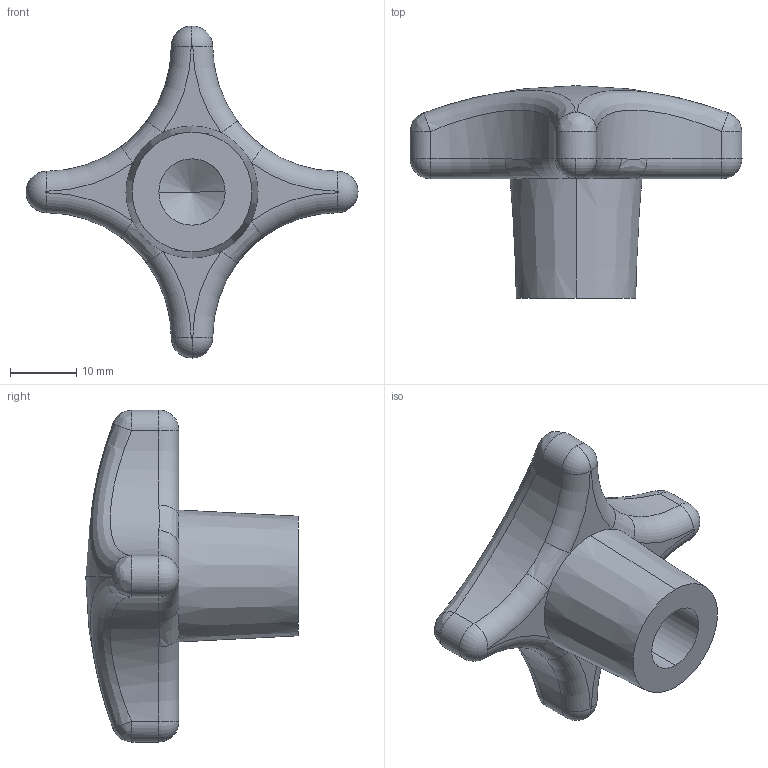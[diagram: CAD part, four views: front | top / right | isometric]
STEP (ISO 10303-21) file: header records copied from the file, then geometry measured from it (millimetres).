
FILE_DESCRIPTION (( 'STEP AP203' ), '1' );
FILE_NAME ('7000.W250.step', '2010-01-29T17:36:31', ( 'Wixroyd' ), ( 'Wixroyd' ), 'SwSTEP 2.0', 'SolidWorks 2009', '' );
FILE_SCHEMA (( 'CONFIG_CONTROL_DESIGN' ));
Length unit declared in the file: millimetre
Products named in the file (1): 7000.W250
Bounding box: 50 x 32 x 50 mm (x, y, z)
Volume: 13779.2 mm3; surface area: 4884.4 mm2
Topology: 1 solids, 1 shells, 49 faces, 115 edges, 67 vertices
Faces by surface type: torus 14, bspline 12, cylinder 11, plane 6, cone 4, sphere 2
Entity records: 7540 total; most frequent: CARTESIAN_POINT 6373, DIRECTION 241, ORIENTED_EDGE 226, EDGE_CURVE 113, AXIS2_PLACEMENT_3D 113, CIRCLE 75, VERTEX_POINT 67, EDGE_LOOP 50
